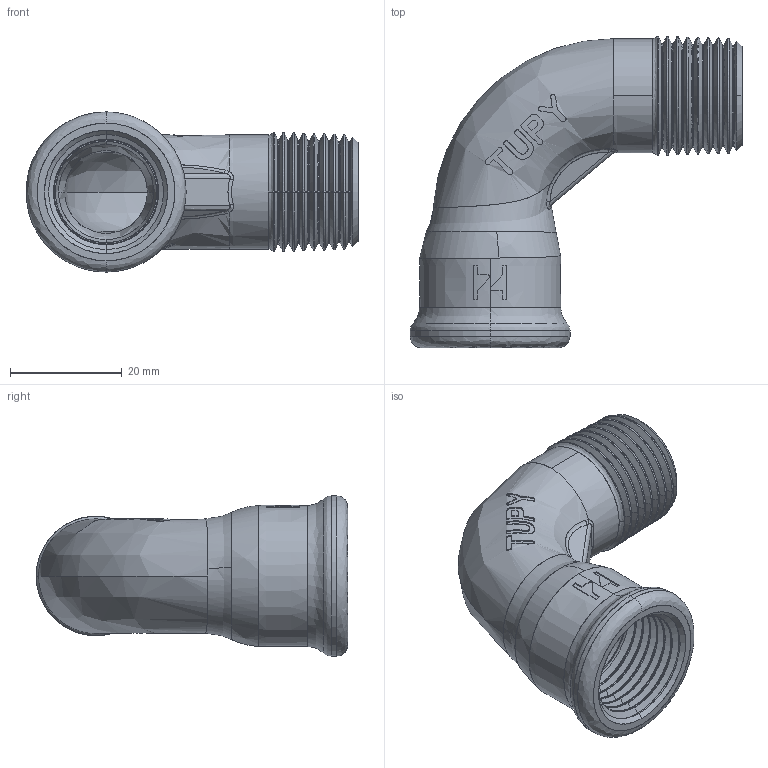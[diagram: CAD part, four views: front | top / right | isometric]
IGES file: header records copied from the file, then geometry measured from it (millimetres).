
Start section: SolidWorks IGES file using analytic representation for surfaces
Global section: file name: C:\Users\Joel Rosa\Desktop\Tubulação\12-22-OK\12-22-004.IGS; native system: SolidWorks 2011; preprocessor: SolidWorks 2011; author: Joel Rosa; date: 130205.210431; units: millimetre
Bounding box: 59.3 x 55.67 x 28.6 mm (x, y, z)
Surface area: 11327.9 mm2 (no closed solid volume)
Topology: 0 solids, 0 shells, 317 faces, 2730 edges, 2730 vertices
Faces by surface type: bspline 230, revolution 87
